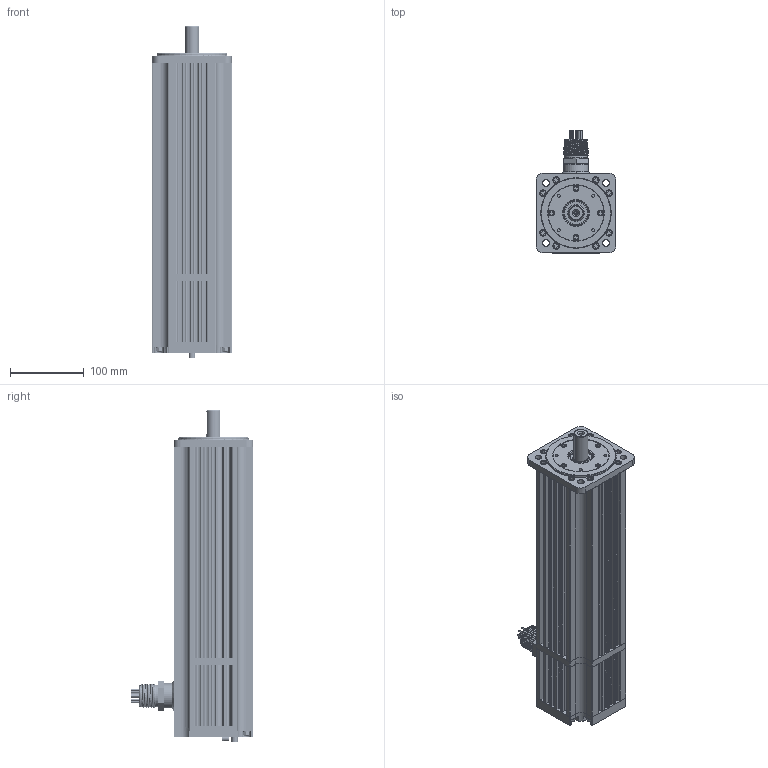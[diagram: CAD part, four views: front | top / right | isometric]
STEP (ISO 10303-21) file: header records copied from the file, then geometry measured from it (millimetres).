
FILE_DESCRIPTION (( 'STEP AP203' ), '1' );
FILE_NAME ('M444-HNN0-ED08.STEP', '2022-12-02T14:30:22', ( '' ), ( '' ), 'SwSTEP 2.0', 'SolidWorks 2019', '' );
FILE_SCHEMA (( 'CONFIG_CONTROL_DESIGN' ));
Products named in the file (1): M444-HNN0-ED08
Bounding box: 108 x 166.17 x 449.75 mm (x, y, z)
Volume: 3259034.9 mm3; surface area: 770112.8 mm2
Topology: 108 solids, 108 shells, 3591 faces, 8832 edges, 5595 vertices
Faces by surface type: cylinder 1623, plane 1283, cone 373, torus 188, bspline 116, sphere 8
Entity records: 129797 total; most frequent: CARTESIAN_POINT 43354, DIRECTION 18914, ORIENTED_EDGE 17498, EDGE_CURVE 8749, AXIS2_PLACEMENT_3D 7402, VERTEX_POINT 5595, VECTOR 4110, LINE 4110
